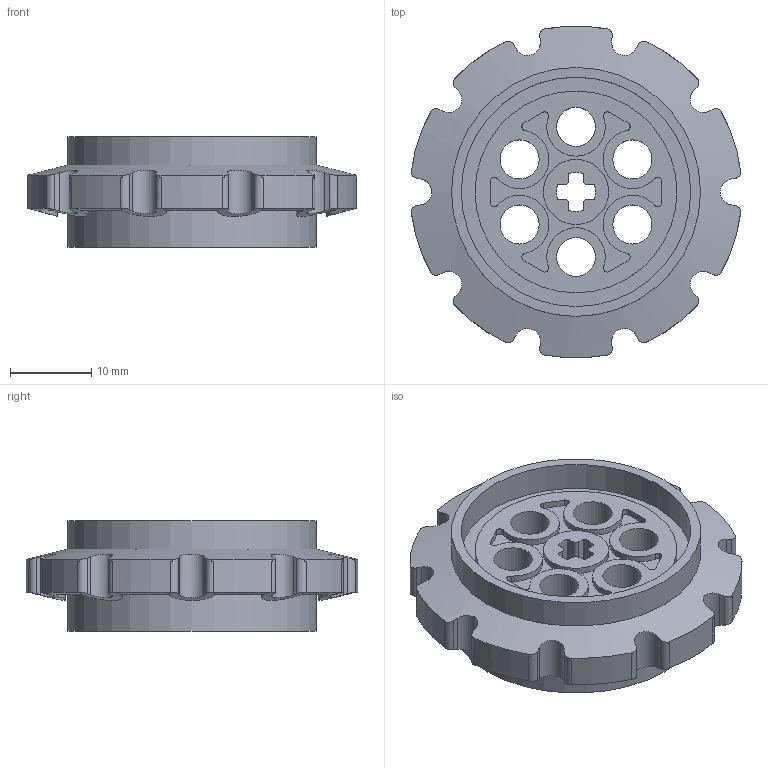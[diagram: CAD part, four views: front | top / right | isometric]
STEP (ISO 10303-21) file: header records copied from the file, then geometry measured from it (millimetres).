
FILE_DESCRIPTION(/* description */ ('Unknown'),/* implementation_level */ '2;1');
FILE_NAME(/* name */ 'Black_4582792_AVV',/* time_stamp */ '2025-07-21T23:47:36+02:00',/* author */ ('Unknown'),/* organization */ ('Unknown'),/* preprocessor_version */ 'ST-DEVELOPER v19.4',/* originating_system */ 'Solid Edge',/* authorisation */ 'Unknown');
FILE_SCHEMA (('AUTOMOTIVE_DESIGN {1 0 10303 214 3 1 1}'));
Length unit declared in the file: millimetre
Products named in the file (1): Black_4582792_AVV
Bounding box: 40.5 x 40.72 x 13.6 mm (x, y, z)
Volume: 4641.5 mm3; surface area: 7739.5 mm2
Topology: 1 solids, 1 shells, 235 faces, 623 edges, 408 vertices
Faces by surface type: cylinder 139, plane 74, cone 22
Full cylindrical faces by diameter (mm): 4.8 x6, 6.2 x6, 7.2 x6, 8 x2, 24.8 x1, 28.2 x2, 30.6 x2
Entity records: 7344 total; most frequent: CARTESIAN_POINT 1876, ORIENTED_EDGE 1148, DIRECTION 1064, EDGE_CURVE 574, AXIS2_PLACEMENT_3D 434, VERTEX_POINT 386, EDGE_LOOP 294, FACE_BOUND 294
